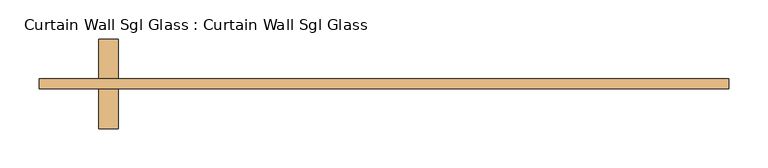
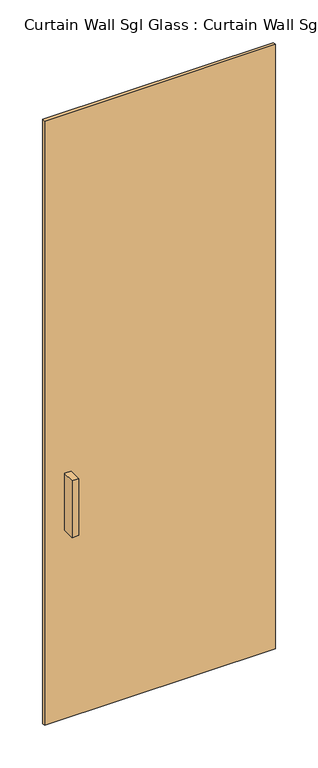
"""IFC4 building model written with IfcOpenShell, lengths in millimetres: door geometry, Curtain Wall Sgl Glass : Curtain Wall Sgl Glass."""

from ifc_helpers import new_model, si_unit, frame, origin, origin_with_axes, place, context, project, spatial, polyline, outline, extrude, source, transform, mapped, element, save


def curtain_wall_sgl_glass_curtain_wall_sgl_glass_0d6a1b13(model_context):
    return source(origin(), model_context, "Body", "SweptSolid", [
        extrude(outline(polyline([(-339.725, -12.7), (-365.125, -12.7), (-365.125, 38.1), (-339.725, 38.1), (-339.725, -12.7)])), frame((0.0, 0.0, 762.0), z_axis=(0.0, 0.0, 1.0), x_axis=(1.0, 0.0, 0.0)), (0.0, 0.0, 1.0), 228.6),
        extrude(outline(polyline([(-365.125, 101.6), (-339.725, 101.6), (-339.725, 50.8), (-365.125, 50.8), (-365.125, 101.6)])), frame((0.0, 0.0, 762.0), z_axis=(0.0, 0.0, 1.0), x_axis=(1.0, 0.0, 0.0)), (0.0, 0.0, 1.0), 228.6),
        extrude(outline(polyline([(441.325, 50.8), (441.325, 38.1), (-441.325, 38.1), (-441.325, 50.8), (441.325, 50.8)])), origin_with_axes(), (0.0, 0.0, 1.0), 2438.4),
    ])


if __name__ == "__main__":
    model = new_model("IFC4")
    model_context = context("Model", 3, world=origin())
    ifc_project = project(units=[si_unit("LENGTHUNIT", "METRE", prefix="MILLI")], contexts=[model_context])
    site = spatial("IfcSite", under=ifc_project)
    building = spatial("IfcBuilding", under=site)
    placement = place(None, origin())
    curtain_wall_sgl_glass_curtain_wall_sgl_glass_shape = curtain_wall_sgl_glass_curtain_wall_sgl_glass_0d6a1b13(model_context)
    element("IfcDoor", 1, ObjectType="Curtain Wall Sgl Glass : Curtain Wall Sgl Glass", at=placement, inside=building, context=model_context, shape_type="MappedRepresentation", body=[
        mapped(curtain_wall_sgl_glass_curtain_wall_sgl_glass_shape, transform((0.0, 0.0, 0.0), x_axis=(1.0, 0.0, 0.0), y_axis=(0.0, 1.0, 0.0), z_axis=(0.0, 0.0, 1.0))),
    ])
    save(model, "model.ifc")
